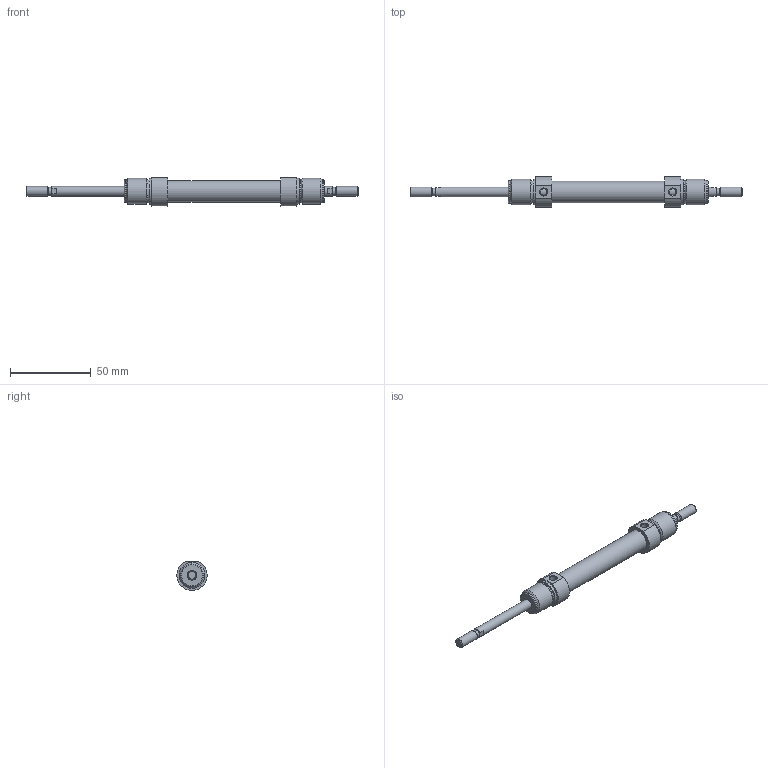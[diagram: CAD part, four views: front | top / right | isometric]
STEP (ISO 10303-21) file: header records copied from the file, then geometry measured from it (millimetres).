
FILE_DESCRIPTION( ( 'STEP AP203' ), '1' );
FILE_NAME( '//expscmdclustefs.cadenas.external/client_exchange/iodir/jobs/output/wkb68360737_no0/STEP/M101-012-0040-M__0__2_03.stp', ' ', ( ' ' ), ( ' ' ), 'PSStep 15.0.47', 'PARTsolutions', ' ' );
FILE_SCHEMA( ( 'CONFIG_CONTROL_DESIGN' ) );
Length unit declared in the file: millimetre
Products named in the file (3): M101-012-0040-M [0]; HI_M101-012-0040-M-[0]-z; HI_M101-012-0040-M-[0]-k
Assembly tree (2 placements, depth 2):
  M101-012-0040-M [0]
    HI_M101-012-0040-M-[0]-z
    HI_M101-012-0040-M-[0]-k
Bounding box: 206 x 18.73 x 17.86 mm (x, y, z)
Volume: 20430.3 mm3; surface area: 14267 mm2
Topology: 2 solids, 2 shells, 65 faces, 129 edges, 80 vertices
Faces by surface type: plane 26, cylinder 23, cone 14, torus 2
Full cylindrical faces by diameter (mm): 4.134 x2, 4.773 x2, 6 x6, 12 x2, 13.3 x1, 14.16 x4, 16 x4
Entity records: 1670 total; most frequent: CARTESIAN_POINT 324, DIRECTION 280, ORIENTED_EDGE 184, AXIS2_PLACEMENT_3D 128, EDGE_LOOP 116, EDGE_CURVE 92, FACE_OUTER_BOUND 88, VERTEX_POINT 76
